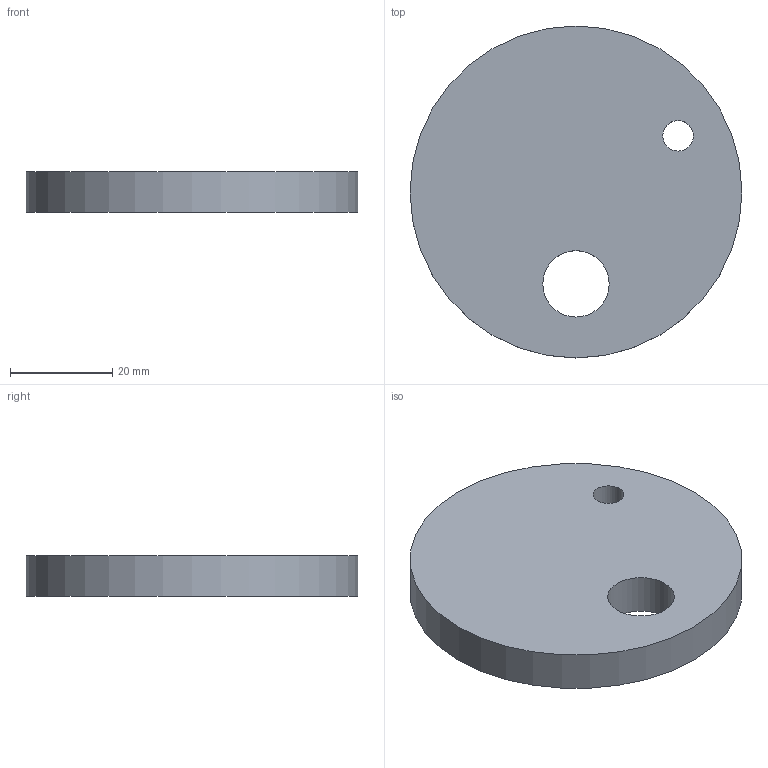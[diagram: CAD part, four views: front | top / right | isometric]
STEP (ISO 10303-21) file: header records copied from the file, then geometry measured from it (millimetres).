
FILE_DESCRIPTION( ( '' ), ' ' );
FILE_NAME( '/vol/tmp/translate-9284011758767758039/5d1bc0eb893fb1175816f10e.step', '2019-07-02T20:39:08', ( '' ), ( '' ), ' ', ' ', ' ' );
FILE_SCHEMA( ( 'AUTOMOTIVE_DESIGN { 1 0 10303 214 1 1 1 1 }' ) );
Length unit declared in the file: metre
Products named in the file (1): Part 1
Bounding box: 65 x 65 x 8 mm (x, y, z)
Volume: 25258.4 mm3; surface area: 8425.8 mm2
Topology: 1 solids, 1 shells, 5 faces, 9 edges, 6 vertices
Faces by surface type: cylinder 3, plane 2
Full cylindrical faces by diameter (mm): 6 x1, 13 x1, 65 x1
Entity records: 178 total; most frequent: DIRECTION 24, CARTESIAN_POINT 18, AXIS2_PLACEMENT_3D 12, EDGE_LOOP 12, ORIENTED_EDGE 12, FACE_OUTER_BOUND 8, EDGE_CURVE 6, VERTEX_POINT 6
